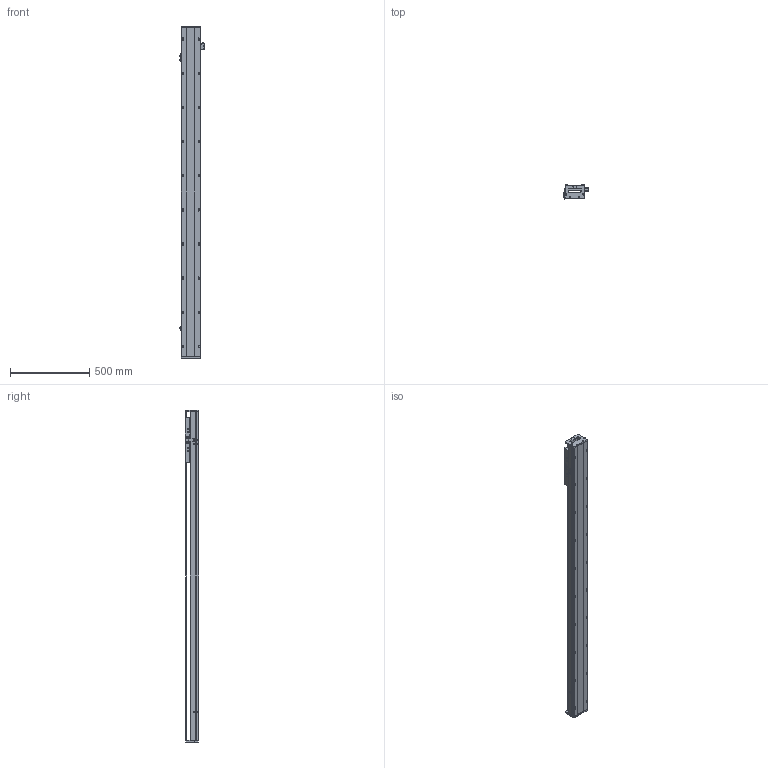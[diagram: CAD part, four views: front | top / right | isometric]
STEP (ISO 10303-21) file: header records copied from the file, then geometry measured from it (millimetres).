
FILE_DESCRIPTION (( 'STEP AP203' ), '1' );
FILE_NAME ('SKR12S-C2-S1720（简）.STEP', '2022-09-26T05:32:35', ( '' ), ( '' ), 'SwSTEP 2.0', 'SolidWorks 2018', '' );
FILE_SCHEMA (( 'CONFIG_CONTROL_DESIGN' ));
Length unit declared in the file: millimetre
Products named in the file (8): SKR12S-C2-S1720（简）; 棠掑假蚾輸; 覜茼え; SKR12菁釱-C2-S1720(潠); EE-SX672; SKR12耜啣; SKR12滑台-280L（简）; SIKO棠掑
Assembly tree (10 placements, depth 2):
  SKR12S-C2-S1720（简）
    SKR12菁釱-C2-S1720(潠)
    SKR12滑台-280L（简）
    SKR12耜啣  x2
    棠掑假蚾輸
    SIKO棠掑
    EE-SX672  x3
    覜茼え
Bounding box: 162.7 x 87.3 x 2100 mm (x, y, z)
Volume: 9337818.7 mm3; surface area: 1464938.5 mm2
Topology: 11 solids, 11 shells, 1088 faces, 2911 edges, 1837 vertices
Faces by surface type: cylinder 522, plane 416, cone 150
Entity records: 30497 total; most frequent: CARTESIAN_POINT 6515, DIRECTION 4947, ORIENTED_EDGE 4754, EDGE_CURVE 2377, AXIS2_PLACEMENT_3D 1845, VERTEX_POINT 1541, LINE 1257, VECTOR 1257
